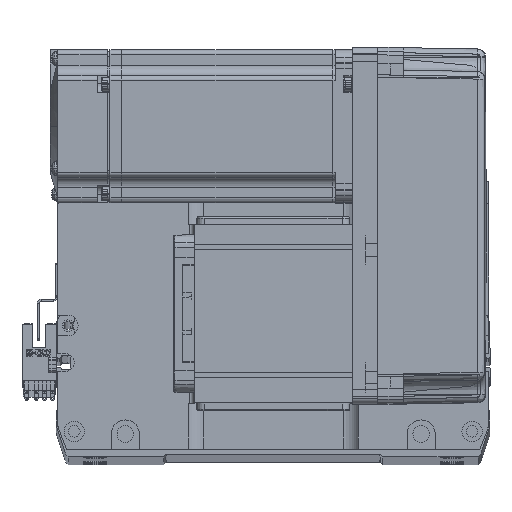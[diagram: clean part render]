
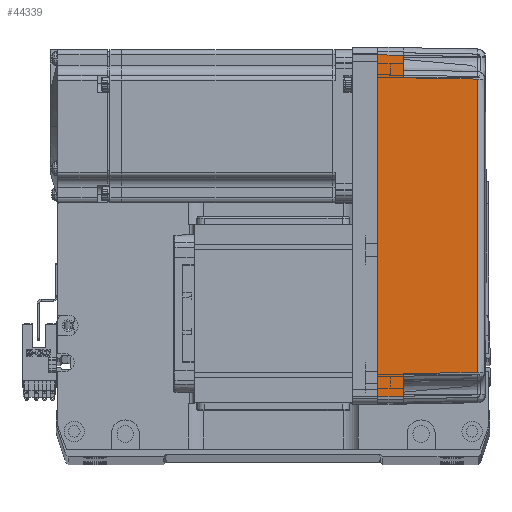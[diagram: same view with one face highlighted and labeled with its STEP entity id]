
A CAD part, top view. The second image highlights one B-rep face of the part: STEP entity #44339.
In plain terms, the highlighted planar face has unit normal (0.018, 0, 1) as drawn and (0, -1, 0.017) by its records, which use the part's own axes.
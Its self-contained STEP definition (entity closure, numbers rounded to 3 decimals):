
#479 = CARTESIAN_POINT ( 'NONE',  ( -66.959, -35.958, 2.39 ) ) ;
#1156 = ORIENTED_EDGE ( 'NONE', *, *, #54774, .T. ) ;
#1501 = CARTESIAN_POINT ( 'NONE',  ( 66.826, -35.825, 10. ) ) ;
#1754 = EDGE_LOOP ( 'NONE', ( #19460, #1156, #56034, #62558, #46984, #9967, #37768, #62868 ) ) ;
#2129 = CARTESIAN_POINT ( 'NONE',  ( -58., -35.825, 10. ) ) ;
#3023 = CARTESIAN_POINT ( 'NONE',  ( 58., -35.825, 10. ) ) ;
#3680 = VERTEX_POINT ( 'NONE', #9712 ) ;
#4533 = VECTOR ( 'NONE', #20771, 1000. ) ;
#6371 = EDGE_CURVE ( 'NONE', #3680, #26165, #43264, .T. ) ;
#9179 = CARTESIAN_POINT ( 'NONE',  ( 67., -36., 0. ) ) ;
#9712 = CARTESIAN_POINT ( 'NONE',  ( 57.495, -35.32, 38.985 ) ) ;
#9967 = ORIENTED_EDGE ( 'NONE', *, *, #40765, .T. ) ;
#10720 = DIRECTION ( 'NONE',  ( -0.017, 0.017, 1. ) ) ;
#11024 = VECTOR ( 'NONE', #44458, 1000. ) ;
#15550 = CARTESIAN_POINT ( 'NONE',  ( 67., -36., 0. ) ) ;
#15600 = CARTESIAN_POINT ( 'NONE',  ( -66.826, -35.825, 10. ) ) ;
#16020 = CARTESIAN_POINT ( 'NONE',  ( 70., -36., 0. ) ) ;
#16794 = VECTOR ( 'NONE', #23748, 1000. ) ;
#17009 = VERTEX_POINT ( 'NONE', #15550 ) ;
#17258 = CARTESIAN_POINT ( 'NONE',  ( -67., -36., 0. ) ) ;
#17480 = EDGE_CURVE ( 'NONE', #45727, #66140, #58906, .T. ) ;
#19460 = ORIENTED_EDGE ( 'NONE', *, *, #57869, .T. ) ;
#20771 = DIRECTION ( 'NONE',  ( 0.017, 0.017, 1. ) ) ;
#21544 = LINE ( 'NONE', #3023, #16794 ) ;
#23748 = DIRECTION ( 'NONE',  ( -0.017, 0.017, 1. ) ) ;
#25447 = LINE ( 'NONE', #48404, #57512 ) ;
#26165 = VERTEX_POINT ( 'NONE', #29190 ) ;
#27316 = DIRECTION ( 'NONE',  ( 0., -0.017, -1. ) ) ;
#28774 = CARTESIAN_POINT ( 'NONE',  ( 70., -35.825, 10. ) ) ;
#29190 = CARTESIAN_POINT ( 'NONE',  ( -57.495, -35.32, 38.985 ) ) ;
#31176 = PLANE ( 'NONE',  #35632 ) ;
#32509 = DIRECTION ( 'NONE',  ( -1., 0., 0. ) ) ;
#32729 = CARTESIAN_POINT ( 'NONE',  ( -19.165, -35.316, 39.181 ) ) ;
#33286 = CARTESIAN_POINT ( 'NONE',  ( 58., -35.825, 10. ) ) ;
#33362 = LINE ( 'NONE', #28774, #11024 ) ;
#35056 = EDGE_CURVE ( 'NONE', #26165, #66281, #43613, .T. ) ;
#35430 = VERTEX_POINT ( 'NONE', #1501 ) ;
#35632 = AXIS2_PLACEMENT_3D ( 'NONE', #16020, #42799, #27316 ) ;
#37656 = CARTESIAN_POINT ( 'NONE',  ( -57.495, -35.32, 38.985 ) ) ;
#37768 = ORIENTED_EDGE ( 'NONE', *, *, #17480, .F. ) ;
#37804 = DIRECTION ( 'NONE',  ( -0.017, -0.017, -1. ) ) ;
#39767 = EDGE_CURVE ( 'NONE', #51397, #3680, #21544, .T. ) ;
#40765 = EDGE_CURVE ( 'NONE', #66281, #66140, #33362, .T. ) ;
#42384 = CARTESIAN_POINT ( 'NONE',  ( 0., -36., 0. ) ) ;
#42777 = VECTOR ( 'NONE', #47997, 1000. ) ;
#42799 = DIRECTION ( 'NONE',  ( 0., -1., 0.017 ) ) ;
#43264 = B_SPLINE_CURVE_WITH_KNOTS ( 'NONE', 3,
 ( #63382, #62732, #32729, #37656 ),
 .UNSPECIFIED., .F., .F.,
 ( 4, 4 ),
 ( 0., 1. ),
 .UNSPECIFIED. ) ;
#43613 = LINE ( 'NONE', #53702, #53258 ) ;
#44339 = ADVANCED_FACE ( 'NONE', ( #63138 ), #31176, .T. ) ;
#44458 = DIRECTION ( 'NONE',  ( -1., 0., 0. ) ) ;
#45727 = VERTEX_POINT ( 'NONE', #17258 ) ;
#45995 = LINE ( 'NONE', #42384, #42777 ) ;
#46984 = ORIENTED_EDGE ( 'NONE', *, *, #35056, .T. ) ;
#47997 = DIRECTION ( 'NONE',  ( -1., 0., 0. ) ) ;
#48404 = CARTESIAN_POINT ( 'NONE',  ( 70., -35.825, 10. ) ) ;
#48754 = VECTOR ( 'NONE', #10720, 1000. ) ;
#51397 = VERTEX_POINT ( 'NONE', #33286 ) ;
#53258 = VECTOR ( 'NONE', #37804, 1000. ) ;
#53702 = CARTESIAN_POINT ( 'NONE',  ( -57.495, -35.32, 38.985 ) ) ;
#54774 = EDGE_CURVE ( 'NONE', #35430, #51397, #25447, .T. ) ;
#55863 = LINE ( 'NONE', #9179, #48754 ) ;
#56034 = ORIENTED_EDGE ( 'NONE', *, *, #39767, .T. ) ;
#57512 = VECTOR ( 'NONE', #32509, 1000. ) ;
#57869 = EDGE_CURVE ( 'NONE', #17009, #35430, #55863, .T. ) ;
#58906 = LINE ( 'NONE', #479, #4533 ) ;
#62558 = ORIENTED_EDGE ( 'NONE', *, *, #6371, .T. ) ;
#62732 = CARTESIAN_POINT ( 'NONE',  ( 19.165, -35.316, 39.181 ) ) ;
#62868 = ORIENTED_EDGE ( 'NONE', *, *, #64727, .F. ) ;
#63138 = FACE_OUTER_BOUND ( 'NONE', #1754, .T. ) ;
#63382 = CARTESIAN_POINT ( 'NONE',  ( 57.495, -35.32, 38.985 ) ) ;
#64727 = EDGE_CURVE ( 'NONE', #17009, #45727, #45995, .T. ) ;
#66140 = VERTEX_POINT ( 'NONE', #15600 ) ;
#66281 = VERTEX_POINT ( 'NONE', #2129 ) ;
